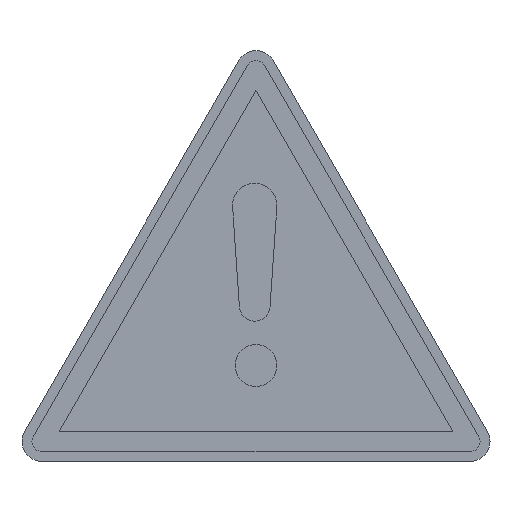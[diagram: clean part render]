
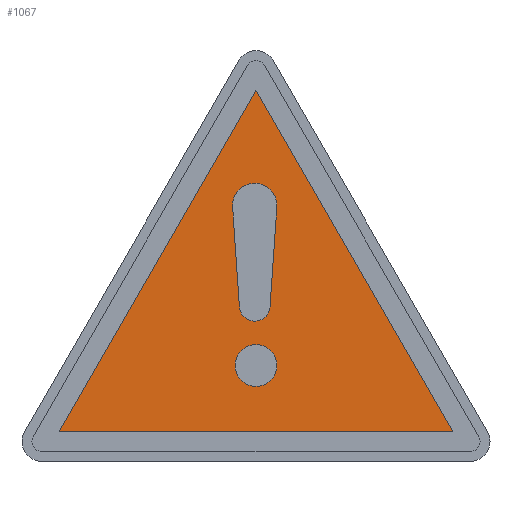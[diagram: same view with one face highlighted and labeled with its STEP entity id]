
A CAD part, top view. The second image highlights one B-rep face of the part: STEP entity #1067.
In plain terms, the highlighted planar face has unit normal (0, 0, 1).
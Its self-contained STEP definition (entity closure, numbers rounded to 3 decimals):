
#13 = ORIENTED_EDGE ( 'NONE', *, *, #1249, .T. ) ;
#28 = ORIENTED_EDGE ( 'NONE', *, *, #197, .F. ) ;
#29 = EDGE_CURVE ( 'NONE', #404, #653, #313, .T. ) ;
#43 = EDGE_CURVE ( 'NONE', #1216, #1206, #530, .T. ) ;
#46 = CIRCLE ( 'NONE', #842, 2.23 ) ;
#50 = CARTESIAN_POINT ( 'NONE',  ( -1.669, 15.537, 0.2 ) ) ;
#73 = CARTESIAN_POINT ( 'NONE',  ( 0., 37.301, 0.2 ) ) ;
#81 = EDGE_CURVE ( 'NONE', #417, #1216, #949, .T. ) ;
#88 = ORIENTED_EDGE ( 'NONE', *, *, #512, .F. ) ;
#123 = CARTESIAN_POINT ( 'NONE',  ( 0., 9.638, 0.2 ) ) ;
#124 = CARTESIAN_POINT ( 'NONE',  ( -19.804, 3., 0.2 ) ) ;
#168 = VECTOR ( 'NONE', #731, 1000. ) ;
#169 = ORIENTED_EDGE ( 'NONE', *, *, #1138, .T. ) ;
#173 = CARTESIAN_POINT ( 'NONE',  ( -2.104, 9.638, 0.2 ) ) ;
#177 = LINE ( 'NONE', #958, #1264 ) ;
#197 = EDGE_CURVE ( 'NONE', #1206, #303, #46, .T. ) ;
#199 = DIRECTION ( 'NONE',  ( 0., 0., 1. ) ) ;
#214 = ORIENTED_EDGE ( 'NONE', *, *, #43, .F. ) ;
#239 = EDGE_LOOP ( 'NONE', ( #88, #826 ) ) ;
#248 = LINE ( 'NONE', #439, #168 ) ;
#251 = CIRCLE ( 'NONE', #360, 2.104 ) ;
#274 = EDGE_LOOP ( 'NONE', ( #169, #13, #538 ) ) ;
#296 = VECTOR ( 'NONE', #743, 1000. ) ;
#303 = VERTEX_POINT ( 'NONE', #899 ) ;
#310 = ORIENTED_EDGE ( 'NONE', *, *, #975, .F. ) ;
#313 = CIRCLE ( 'NONE', #907, 1.543 ) ;
#328 = DIRECTION ( 'NONE',  ( 0., 0., 1. ) ) ;
#360 = AXIS2_PLACEMENT_3D ( 'NONE', #1076, #696, #987 ) ;
#375 = DIRECTION ( 'NONE',  ( 0., 0., 1. ) ) ;
#390 = DIRECTION ( 'NONE',  ( -1., 0., 0. ) ) ;
#392 = DIRECTION ( 'NONE',  ( 0., 0., 1. ) ) ;
#404 = VERTEX_POINT ( 'NONE', #50 ) ;
#409 = DIRECTION ( 'NONE',  ( 0., 0., 1. ) ) ;
#413 = VERTEX_POINT ( 'NONE', #73 ) ;
#417 = VERTEX_POINT ( 'NONE', #853 ) ;
#421 = LINE ( 'NONE', #124, #460 ) ;
#423 = AXIS2_PLACEMENT_3D ( 'NONE', #605, #409, #797 ) ;
#430 = VERTEX_POINT ( 'NONE', #668 ) ;
#437 = EDGE_CURVE ( 'NONE', #833, #413, #248, .T. ) ;
#438 = CARTESIAN_POINT ( 'NONE',  ( 2.095, 25.588, 0.2 ) ) ;
#439 = CARTESIAN_POINT ( 'NONE',  ( 19.804, 3., 0.2 ) ) ;
#456 = DIRECTION ( 'NONE',  ( 1., 0., 0. ) ) ;
#460 = VECTOR ( 'NONE', #1018, 1000. ) ;
#469 = CARTESIAN_POINT ( 'NONE',  ( -0.13, 25.74, 0.2 ) ) ;
#480 = ORIENTED_EDGE ( 'NONE', *, *, #780, .F. ) ;
#491 = CARTESIAN_POINT ( 'NONE',  ( 19.804, 3., 0.2 ) ) ;
#503 = CARTESIAN_POINT ( 'NONE',  ( 2.104, 9.638, 0.2 ) ) ;
#510 = LINE ( 'NONE', #890, #990 ) ;
#512 = EDGE_CURVE ( 'NONE', #1026, #724, #251, .T. ) ;
#529 = CARTESIAN_POINT ( 'NONE',  ( 2.101, 25.74, 0.2 ) ) ;
#530 = CIRCLE ( 'NONE', #683, 2.23 ) ;
#538 = ORIENTED_EDGE ( 'NONE', *, *, #437, .T. ) ;
#540 = DIRECTION ( 'NONE',  ( 1., 0., 0. ) ) ;
#559 = FACE_BOUND ( 'NONE', #239, .T. ) ;
#572 = ORIENTED_EDGE ( 'NONE', *, *, #29, .F. ) ;
#605 = CARTESIAN_POINT ( 'NONE',  ( -0.13, 25.74, 0.2 ) ) ;
#624 = EDGE_CURVE ( 'NONE', #724, #1026, #1160, .T. ) ;
#653 = VERTEX_POINT ( 'NONE', #946 ) ;
#655 = FACE_BOUND ( 'NONE', #999, .T. ) ;
#667 = DIRECTION ( 'NONE',  ( 0., 0., 1. ) ) ;
#668 = CARTESIAN_POINT ( 'NONE',  ( -19.804, 3., 0.2 ) ) ;
#683 = AXIS2_PLACEMENT_3D ( 'NONE', #469, #667, #1259 ) ;
#689 = DIRECTION ( 'NONE',  ( -0.5, -0.866, 0. ) ) ;
#696 = DIRECTION ( 'NONE',  ( 0., 0., 1. ) ) ;
#724 = VERTEX_POINT ( 'NONE', #503 ) ;
#731 = DIRECTION ( 'NONE',  ( -0.5, 0.866, 0. ) ) ;
#743 = DIRECTION ( 'NONE',  ( 0.068, 0.998, 0. ) ) ;
#778 = DIRECTION ( 'NONE',  ( 0.068, -0.998, 0. ) ) ;
#780 = EDGE_CURVE ( 'NONE', #303, #404, #177, .T. ) ;
#797 = DIRECTION ( 'NONE',  ( -1., 0., 0. ) ) ;
#826 = ORIENTED_EDGE ( 'NONE', *, *, #624, .F. ) ;
#833 = VERTEX_POINT ( 'NONE', #491 ) ;
#841 = CARTESIAN_POINT ( 'NONE',  ( 0., 39.301, 0.2 ) ) ;
#842 = AXIS2_PLACEMENT_3D ( 'NONE', #980, #392, #390 ) ;
#853 = CARTESIAN_POINT ( 'NONE',  ( 2.095, 25.588, 0.2 ) ) ;
#859 = ORIENTED_EDGE ( 'NONE', *, *, #81, .F. ) ;
#890 = CARTESIAN_POINT ( 'NONE',  ( 0., 37.301, 0.2 ) ) ;
#899 = CARTESIAN_POINT ( 'NONE',  ( -2.355, 25.588, 0.2 ) ) ;
#907 = AXIS2_PLACEMENT_3D ( 'NONE', #1062, #199, #966 ) ;
#946 = CARTESIAN_POINT ( 'NONE',  ( 1.41, 15.537, 0.2 ) ) ;
#949 = CIRCLE ( 'NONE', #423, 2.23 ) ;
#958 = CARTESIAN_POINT ( 'NONE',  ( -1.669, 15.537, 0.2 ) ) ;
#966 = DIRECTION ( 'NONE',  ( -1., 0., 0. ) ) ;
#975 = EDGE_CURVE ( 'NONE', #653, #417, #1118, .T. ) ;
#980 = CARTESIAN_POINT ( 'NONE',  ( -0.13, 25.74, 0.2 ) ) ;
#987 = DIRECTION ( 'NONE',  ( 1., 0., 0. ) ) ;
#990 = VECTOR ( 'NONE', #689, 1000. ) ;
#999 = EDGE_LOOP ( 'NONE', ( #310, #572, #480, #28, #214, #859 ) ) ;
#1018 = DIRECTION ( 'NONE',  ( 1., 0., 0. ) ) ;
#1026 = VERTEX_POINT ( 'NONE', #173 ) ;
#1035 = PLANE ( 'NONE',  #1090 ) ;
#1040 = FACE_OUTER_BOUND ( 'NONE', #274, .T. ) ;
#1062 = CARTESIAN_POINT ( 'NONE',  ( -0.13, 15.642, 0.2 ) ) ;
#1067 = ADVANCED_FACE ( 'NONE', ( #559, #1040, #655 ), #1035, .T. ) ;
#1076 = CARTESIAN_POINT ( 'NONE',  ( 0., 9.638, 0.2 ) ) ;
#1090 = AXIS2_PLACEMENT_3D ( 'NONE', #841, #375, #456 ) ;
#1118 = LINE ( 'NONE', #438, #296 ) ;
#1123 = CARTESIAN_POINT ( 'NONE',  ( -2.36, 25.74, 0.2 ) ) ;
#1138 = EDGE_CURVE ( 'NONE', #413, #430, #510, .T. ) ;
#1160 = CIRCLE ( 'NONE', #1202, 2.104 ) ;
#1202 = AXIS2_PLACEMENT_3D ( 'NONE', #123, #328, #540 ) ;
#1206 = VERTEX_POINT ( 'NONE', #1123 ) ;
#1216 = VERTEX_POINT ( 'NONE', #529 ) ;
#1249 = EDGE_CURVE ( 'NONE', #430, #833, #421, .T. ) ;
#1259 = DIRECTION ( 'NONE',  ( -1., 0., 0. ) ) ;
#1264 = VECTOR ( 'NONE', #778, 1000. ) ;
